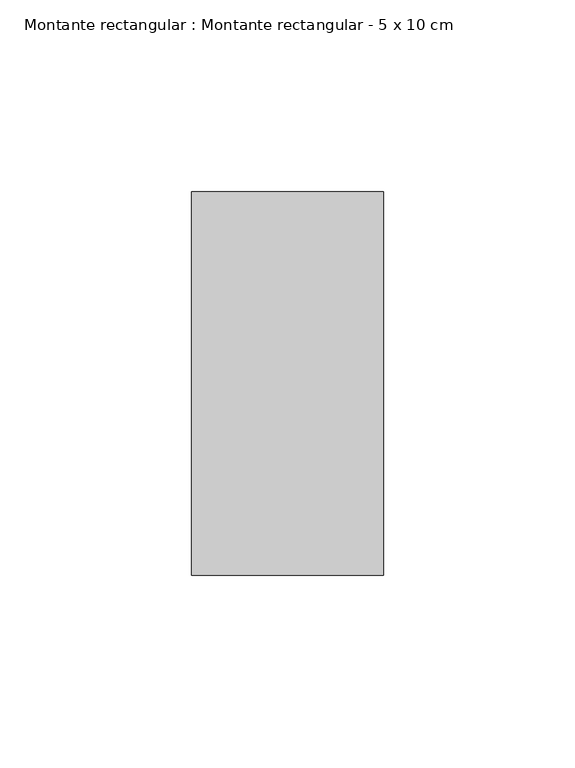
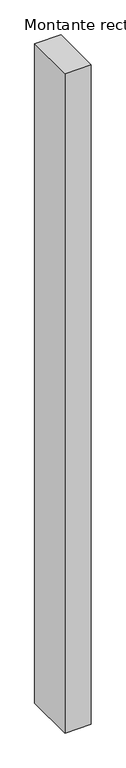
"""IFC4 building model written with IfcOpenShell, lengths in millimetres: member geometry, Montante rectangular : Montante rectangular - 5 x 10 cm."""

from ifc_helpers import new_model, si_unit, frame, origin, place, context, project, spatial, polyline, outline, extrude, source, transform, mapped, element, save


def montante_rectangular_montante_rectangular_5_x_10_cm_472658ce(model_context):
    return source(origin(), model_context, "Body", "SweptSolid", [
        extrude(outline(polyline([(25.0, 50.0), (25.0, -50.0), (-25.0, -50.0), (-25.0, 50.0), (25.0, 50.0)])), frame((0.0, 0.0, -1335.0), z_axis=(0.0, 0.0, 1.0), x_axis=(1.0, 0.0, 0.0)), (0.0, 0.0, 1.0), 1335.0),
    ])


if __name__ == "__main__":
    model = new_model("IFC4")
    model_context = context("Model", 3, world=origin())
    ifc_project = project(units=[si_unit("LENGTHUNIT", "METRE", prefix="MILLI")], contexts=[model_context])
    site = spatial("IfcSite", under=ifc_project)
    building = spatial("IfcBuilding", under=site)
    placement = place(None, origin())
    montante_rectangular_montante_rectangular_5_x_10_cm_shape = montante_rectangular_montante_rectangular_5_x_10_cm_472658ce(model_context)
    element("IfcMember", 1, ObjectType="Montante rectangular : Montante rectangular - 5 x 10 cm", at=placement, inside=building, context=model_context, shape_type="MappedRepresentation", body=[
        mapped(montante_rectangular_montante_rectangular_5_x_10_cm_shape, transform((0.0, 0.0, 0.0), x_axis=(1.0, 0.0, 0.0), y_axis=(0.0, 1.0, 0.0), z_axis=(0.0, 0.0, 1.0))),
    ])
    save(model, "model.ifc")
